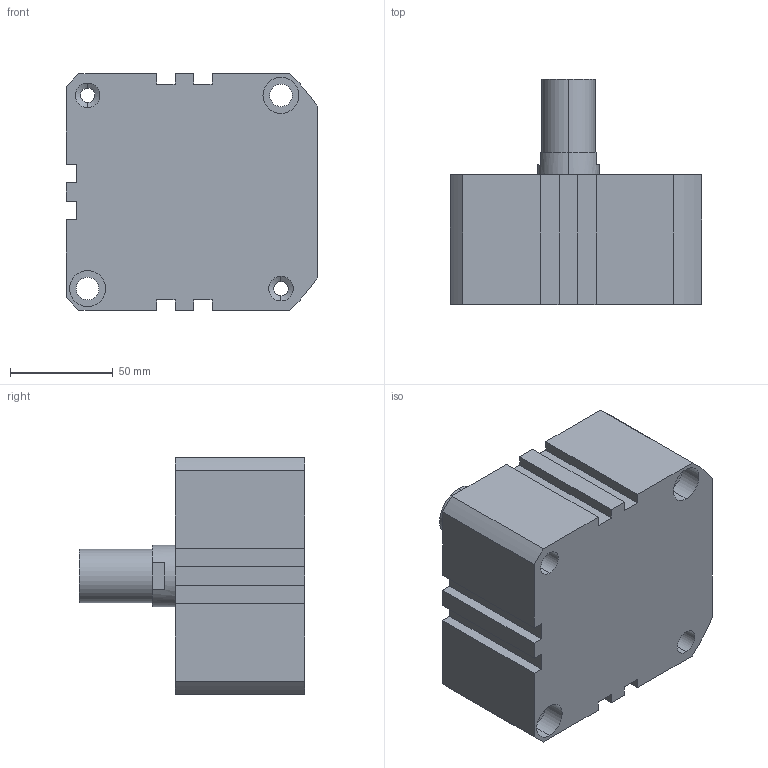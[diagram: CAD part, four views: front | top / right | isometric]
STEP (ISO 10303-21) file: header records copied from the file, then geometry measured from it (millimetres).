
FILE_DESCRIPTION (( 'STEP AP203' ), '1' );
FILE_NAME ('XC#M2-100-10.STEP', '2016-05-23T08:51:45', ( '' ), ( '' ), 'SwSTEP 2.0', 'SolidWorks 2014', '' );
FILE_SCHEMA (( 'CONFIG_CONTROL_DESIGN' ));
Length unit declared in the file: millimetre
Products named in the file (1): XC#M2-100-10
Bounding box: 122.5 x 109.5 x 115 mm (x, y, z)
Volume: 835771.8 mm3; surface area: 75468.9 mm2
Topology: 1 solids, 1 shells, 110 faces, 271 edges, 173 vertices
Faces by surface type: cylinder 47, plane 47, cone 16
Entity records: 3335 total; most frequent: DIRECTION 600, CARTESIAN_POINT 551, ORIENTED_EDGE 534, EDGE_CURVE 267, AXIS2_PLACEMENT_3D 222, VERTEX_POINT 173, LINE 156, VECTOR 156
